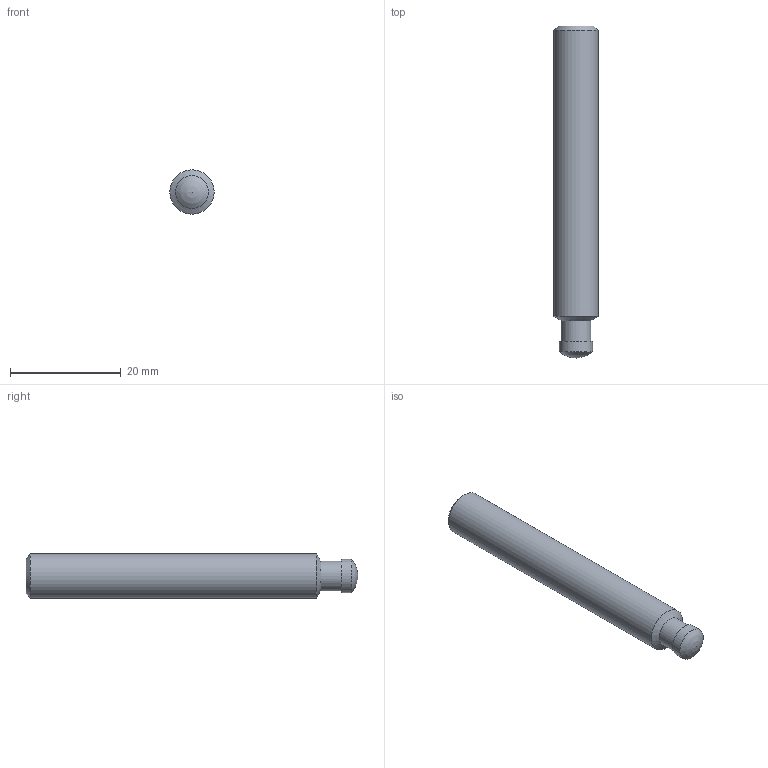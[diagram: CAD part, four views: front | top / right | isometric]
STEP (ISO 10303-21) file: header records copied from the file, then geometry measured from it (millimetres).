
FILE_DESCRIPTION( ( 'STEP AP203' ), '1' );
FILE_NAME( 'C:/Temp/Ganter_Step_05_03_2020/data/3_2/din6332/din6332/Grub screw DIN 6332-M8-60-SK.stp', '2020-03-13T05:16:19', ( 'License CC BY-ND 4.0' ), ( 'CADENAS' ), ' ', 'PARTsolutions', ' ' );
FILE_SCHEMA( ( 'CONFIG_CONTROL_DESIGN' ) );
Length unit declared in the file: millimetre
Products named in the file (1): _Grub screw DIN 6332-M8-60-SK
Bounding box: 8 x 60 x 8 mm (x, y, z)
Volume: 2779.5 mm3; surface area: 1560.2 mm2
Topology: 1 solids, 1 shells, 15 faces, 33 edges, 21 vertices
Faces by surface type: plane 9, cylinder 3, cone 2, sphere 1
Full cylindrical faces by diameter (mm): 5.4 x1, 6 x1, 8 x1
Entity records: 410 total; most frequent: DIRECTION 64, CARTESIAN_POINT 61, ORIENTED_EDGE 50, EDGE_CURVE 25, AXIS2_PLACEMENT_3D 23, EDGE_LOOP 22, VERTEX_POINT 20, FACE_OUTER_BOUND 18
